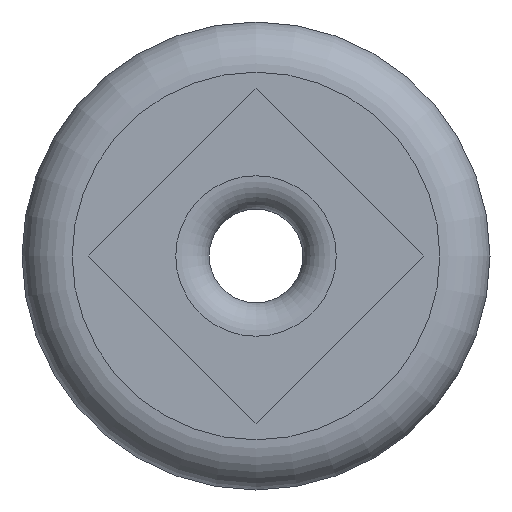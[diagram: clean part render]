
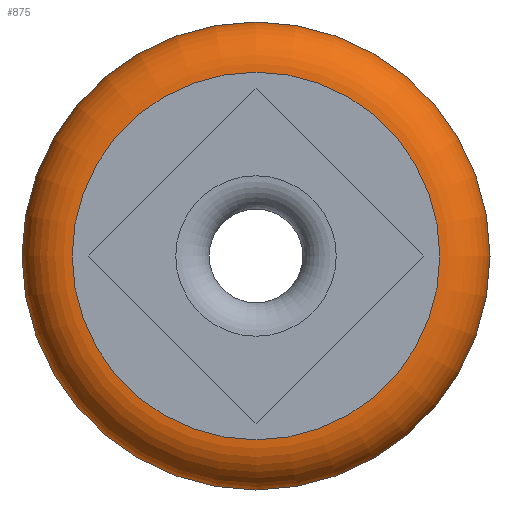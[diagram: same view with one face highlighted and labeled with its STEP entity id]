
A CAD part, front view. The second image highlights one B-rep face of the part: STEP entity #875.
In plain terms, the highlighted toroidal (fillet/blend) face has major radius 13.97 mm and minor radius 3.81 mm.
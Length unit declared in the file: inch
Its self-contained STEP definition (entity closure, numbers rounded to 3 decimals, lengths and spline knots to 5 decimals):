
#33=TOROIDAL_SURFACE('',#960,0.55,0.15);
#47=CIRCLE('',#940,0.7);
#48=CIRCLE('',#941,0.7);
#59=CIRCLE('',#961,0.15);
#60=CIRCLE('',#962,0.55);
#61=CIRCLE('',#963,0.55);
#106=FACE_OUTER_BOUND('',#157,.T.);
#157=EDGE_LOOP('',(#761,#762,#763,#764,#765,#766));
#380=VERTEX_POINT('',#2714);
#381=VERTEX_POINT('',#2716);
#390=VERTEX_POINT('',#4441);
#391=VERTEX_POINT('',#4443);
#496=EDGE_CURVE('',#381,#380,#47,.T.);
#497=EDGE_CURVE('',#380,#381,#48,.T.);
#517=EDGE_CURVE('',#381,#390,#59,.T.);
#518=EDGE_CURVE('',#390,#391,#60,.T.);
#519=EDGE_CURVE('',#391,#390,#61,.T.);
#761=ORIENTED_EDGE('',*,*,#497,.T.);
#762=ORIENTED_EDGE('',*,*,#517,.T.);
#763=ORIENTED_EDGE('',*,*,#518,.T.);
#764=ORIENTED_EDGE('',*,*,#519,.T.);
#765=ORIENTED_EDGE('',*,*,#517,.F.);
#766=ORIENTED_EDGE('',*,*,#496,.T.);
#875=ADVANCED_FACE('',(#106),#33,.T.);
#940=AXIS2_PLACEMENT_3D('',#2717,#1093,#1094);
#941=AXIS2_PLACEMENT_3D('',#2718,#1095,#1096);
#960=AXIS2_PLACEMENT_3D('',#4440,#1134,#1135);
#961=AXIS2_PLACEMENT_3D('',#4442,#1136,#1137);
#962=AXIS2_PLACEMENT_3D('',#4444,#1138,#1139);
#963=AXIS2_PLACEMENT_3D('',#4445,#1140,#1141);
#1093=DIRECTION('center_axis',(0.,-1.,0.));
#1094=DIRECTION('ref_axis',(1.,0.,0.));
#1095=DIRECTION('center_axis',(0.,-1.,0.));
#1096=DIRECTION('ref_axis',(1.,0.,0.));
#1134=DIRECTION('center_axis',(0.,1.,0.));
#1135=DIRECTION('ref_axis',(0.,0.,1.));
#1136=DIRECTION('center_axis',(-1.,0.,0.));
#1137=DIRECTION('ref_axis',(0.,0.,-1.));
#1138=DIRECTION('center_axis',(0.,1.,0.));
#1139=DIRECTION('ref_axis',(1.,0.,0.));
#1140=DIRECTION('center_axis',(0.,1.,0.));
#1141=DIRECTION('ref_axis',(1.,0.,0.));
#2714=CARTESIAN_POINT('',(-0.7,0.15,0.));
#2716=CARTESIAN_POINT('',(0.,0.15,-0.7));
#2717=CARTESIAN_POINT('Origin',(0.,0.15,0.));
#2718=CARTESIAN_POINT('Origin',(0.,0.15,0.));
#4440=CARTESIAN_POINT('Origin',(0.,0.15,0.));
#4441=CARTESIAN_POINT('',(0.,0.,-0.55));
#4442=CARTESIAN_POINT('Origin',(0.,0.15,-0.55));
#4443=CARTESIAN_POINT('',(-0.55,0.,0.));
#4444=CARTESIAN_POINT('Origin',(0.,0.,0.));
#4445=CARTESIAN_POINT('Origin',(0.,0.,0.));
